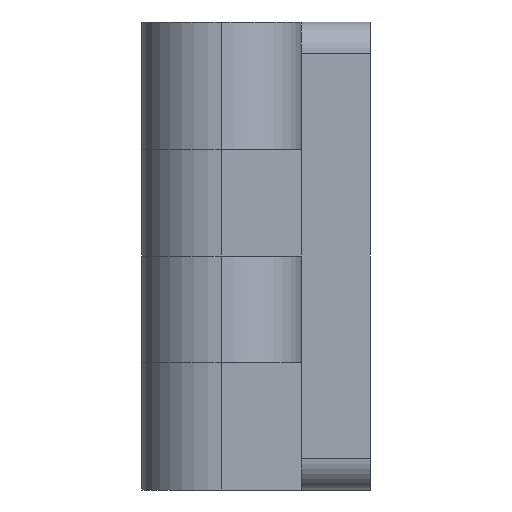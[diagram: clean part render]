
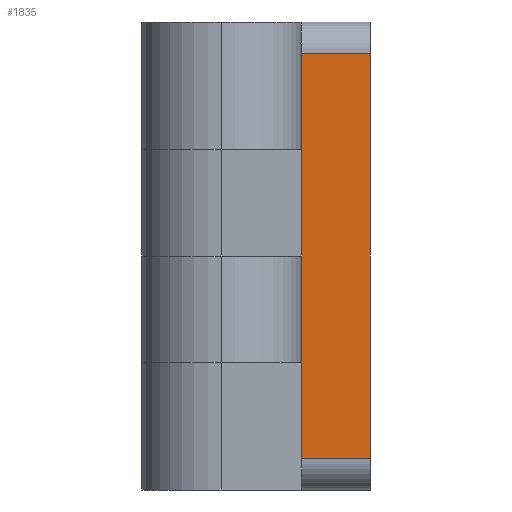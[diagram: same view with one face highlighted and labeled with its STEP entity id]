
A CAD part, left-side view. The second image highlights one B-rep face of the part: STEP entity #1835.
In plain terms, the highlighted planar face has unit normal (-1, 0, 0).
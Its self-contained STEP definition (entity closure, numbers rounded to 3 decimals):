
#71 = LINE ( 'NONE', #2187, #1345 ) ;
#75 = VERTEX_POINT ( 'NONE', #1820 ) ;
#189 = DIRECTION ( 'NONE',  ( 0., 1., 0. ) ) ;
#227 = ORIENTED_EDGE ( 'NONE', *, *, #489, .T. ) ;
#331 = ORIENTED_EDGE ( 'NONE', *, *, #961, .F. ) ;
#355 = VECTOR ( 'NONE', #633, 1000. ) ;
#432 = CARTESIAN_POINT ( 'NONE',  ( -53.789, -4.458, 66.5 ) ) ;
#489 = EDGE_CURVE ( 'NONE', #75, #608, #71, .T. ) ;
#509 = DIRECTION ( 'NONE',  ( 0., 0., -1. ) ) ;
#565 = DIRECTION ( 'NONE',  ( 0., 0., 1. ) ) ;
#601 = CARTESIAN_POINT ( 'NONE',  ( -53.789, 2.042, 28.5 ) ) ;
#608 = VERTEX_POINT ( 'NONE', #2331 ) ;
#614 = EDGE_CURVE ( 'NONE', #1248, #75, #1088, .T. ) ;
#633 = DIRECTION ( 'NONE',  ( 0., -1., 0. ) ) ;
#657 = LINE ( 'NONE', #432, #1513 ) ;
#732 = DIRECTION ( 'NONE',  ( 1., 0., 0. ) ) ;
#782 = CARTESIAN_POINT ( 'NONE',  ( -53.789, 2.042, 25.5 ) ) ;
#839 = FACE_OUTER_BOUND ( 'NONE', #2257, .T. ) ;
#853 = CARTESIAN_POINT ( 'NONE',  ( -53.789, -4.458, 28.5 ) ) ;
#949 = AXIS2_PLACEMENT_3D ( 'NONE', #953, #732, #509 ) ;
#953 = CARTESIAN_POINT ( 'NONE',  ( -53.789, -4.458, 25.5 ) ) ;
#961 = EDGE_CURVE ( 'NONE', #1248, #1935, #1014, .T. ) ;
#1014 = LINE ( 'NONE', #782, #1822 ) ;
#1088 = LINE ( 'NONE', #853, #355 ) ;
#1097 = CARTESIAN_POINT ( 'NONE',  ( -53.789, 2.042, 66.5 ) ) ;
#1201 = PLANE ( 'NONE',  #949 ) ;
#1233 = EDGE_CURVE ( 'NONE', #608, #1935, #657, .T. ) ;
#1248 = VERTEX_POINT ( 'NONE', #601 ) ;
#1345 = VECTOR ( 'NONE', #1952, 1000. ) ;
#1513 = VECTOR ( 'NONE', #189, 1000. ) ;
#1820 = CARTESIAN_POINT ( 'NONE',  ( -53.789, -4.458, 28.5 ) ) ;
#1822 = VECTOR ( 'NONE', #565, 1000. ) ;
#1835 = ADVANCED_FACE ( 'NONE', ( #839 ), #1201, .F. ) ;
#1935 = VERTEX_POINT ( 'NONE', #1097 ) ;
#1952 = DIRECTION ( 'NONE',  ( 0., 0., 1. ) ) ;
#1953 = ORIENTED_EDGE ( 'NONE', *, *, #1233, .T. ) ;
#2187 = CARTESIAN_POINT ( 'NONE',  ( -53.789, -4.458, 25.5 ) ) ;
#2237 = ORIENTED_EDGE ( 'NONE', *, *, #614, .T. ) ;
#2257 = EDGE_LOOP ( 'NONE', ( #227, #1953, #331, #2237 ) ) ;
#2331 = CARTESIAN_POINT ( 'NONE',  ( -53.789, -4.458, 66.5 ) ) ;
